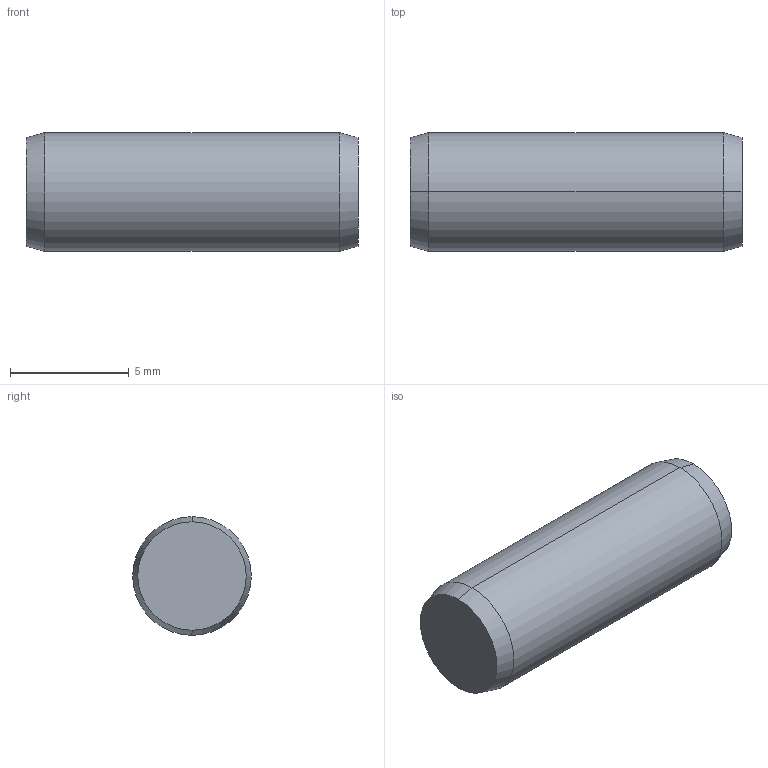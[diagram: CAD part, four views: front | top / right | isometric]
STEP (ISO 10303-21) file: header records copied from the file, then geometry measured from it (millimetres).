
FILE_DESCRIPTION (( 'STEP AP203' ), '1' );
FILE_NAME ('P1206.050-014.step', '2017-06-14T08:14:51', ( 'User' ), ( '' ), 'SwSTEP 2.0', 'SolidWorks 2009', '' );
FILE_SCHEMA (( 'CONFIG_CONTROL_DESIGN' ));
Length unit declared in the file: millimetre
Products named in the file (1): P1206.050-014
Bounding box: 14 x 5 x 5 mm (x, y, z)
Volume: 272.3 mm3; surface area: 252.5 mm2
Topology: 1 solids, 1 shells, 8 faces, 14 edges, 8 vertices
Faces by surface type: cone 4, cylinder 2, plane 2
Entity records: 271 total; most frequent: DIRECTION 40, CARTESIAN_POINT 31, ORIENTED_EDGE 28, AXIS2_PLACEMENT_3D 17, EDGE_CURVE 14, EDGE_LOOP 8, ADVANCED_FACE 8, VERTEX_POINT 8
